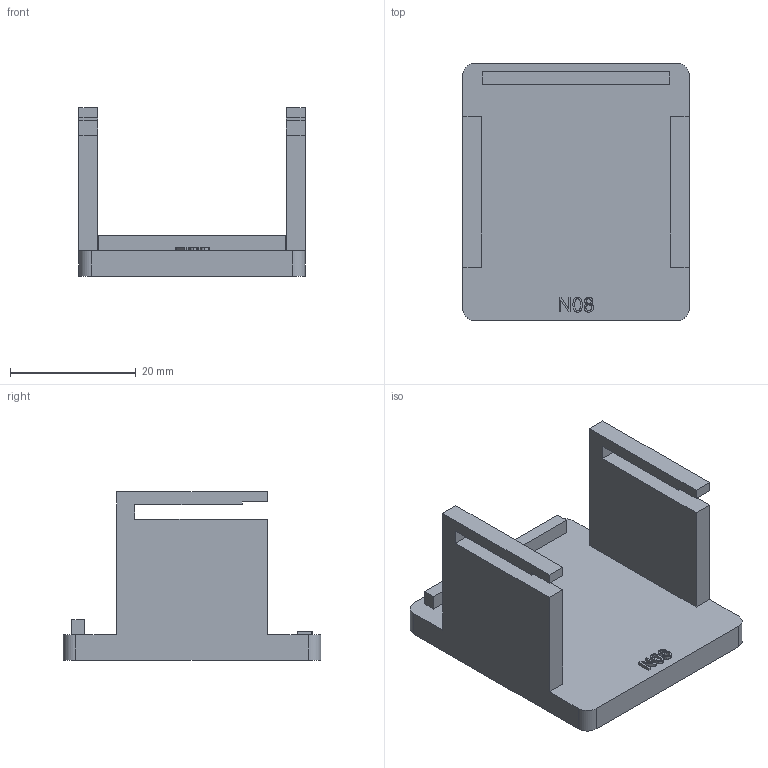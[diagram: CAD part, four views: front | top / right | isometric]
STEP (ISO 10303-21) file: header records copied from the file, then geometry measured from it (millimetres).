
FILE_DESCRIPTION(('Open CASCADE Model'),'2;1');
FILE_NAME('Open CASCADE Shape Model','1970-01-01T00:00:00',('Author'),( 'Open CASCADE'),'Open CASCADE STEP processor 7.8','Open CASCADE 7.8' ,'Unknown');
FILE_SCHEMA(('AUTOMOTIVE_DESIGN { 1 0 10303 214 1 1 1 1 }'));
Length unit declared in the file: millimetre
Products named in the file (2): Open CASCADE STEP translator 7.8 16; N08D neck storage shoe
Assembly tree (1 placements, depth 2):
  Open CASCADE STEP translator 7.8 16
    N08D neck storage shoe
Bounding box: 36 x 41 x 26.73 mm (x, y, z)
Volume: 8998 mm3; surface area: 6218.6 mm2
Topology: 1 solids, 1 shells, 104 faces, 285 edges, 190 vertices
Faces by surface type: extrusion 53, plane 47, cylinder 4
Entity records: 7993 total; most frequent: CARTESIAN_POINT 2865, DIRECTION 673, ORIENTED_EDGE 570, PCURVE 570, DEFINITIONAL_REPRESENTATION 570, VECTOR 545, LINE 492, B_SPLINE_CURVE_WITH_KNOTS 400
